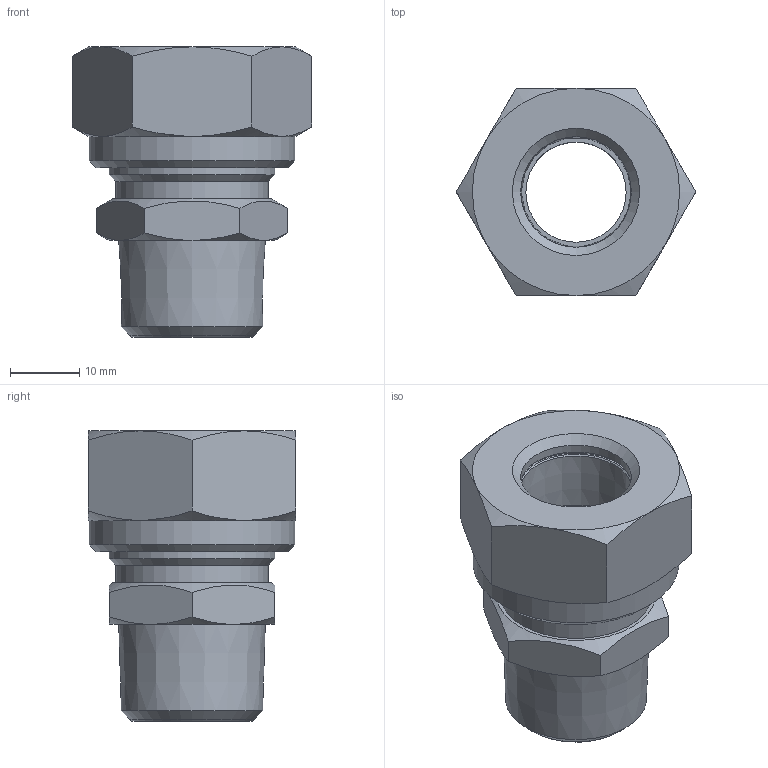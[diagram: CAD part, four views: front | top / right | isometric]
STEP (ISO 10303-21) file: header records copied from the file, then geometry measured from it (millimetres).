
FILE_DESCRIPTION(('Bauteilbeschreibung','HiCAD-Model','HiCAD-STEP-TRANSLATION','Bauteilbeschreibung'),'2;1');
FILE_NAME('B:/ABGLEICH/ZEICHNUNGEN/STEP FÜR INTERNET/STEP/201/94832_201_16_1-2.STP','2012-01-20T08:16:39+00:00',('Konstrukteur'),('Konstrukteur Firma GmbH'),' HiCAD neXt 2008, Step 3.1.1401.2J ','HiCAD neXt 2008','confidential');
FILE_SCHEMA(('AUTOMOTIVE_DESIGN { 1 2 10303 214 0 1 1 1 }'));
Length unit declared in the file: millimetre
Products named in the file (9): A4832_201_16_1_2; A4832; A48320; R 1_2_14; DIN 13_M24X1_5; A7408; A6808; A68080; DIN0130M24X105
Assembly tree (8 placements, depth 3):
  A4832_201_16_1_2
    A4832
    A48320
      R 1_2_14
      DIN 13_M24X1_5
    A7408
    A6808
    A68080
      DIN0130M24X105
Bounding box: 34.64 x 30 x 42 mm (x, y, z)
Volume: 14432 mm3; surface area: 13823.2 mm2
Topology: 6 solids, 6 shells, 75 faces, 161 edges, 97 vertices
Faces by surface type: cone 39, plane 23, cylinder 12, torus 1
Full cylindrical faces by diameter (mm): 14.5 x1, 16 x2, 22 x1, 22.16 x4, 24 x3, 29.8 x1
Entity records: 2471 total; most frequent: CARTESIAN_POINT 357, DIRECTION 316, ORIENTED_EDGE 218, AXIS2_PLACEMENT_3D 152, EDGE_LOOP 126, COLOUR_RGB 115, PRESENTATION_STYLE_ASSIGNMENT 115, CURVE_STYLE 109
